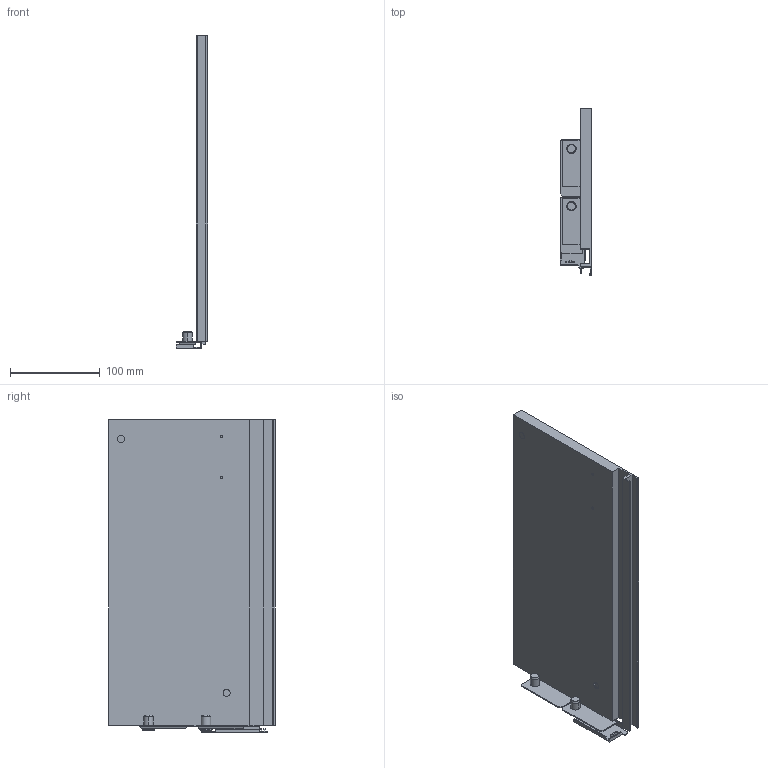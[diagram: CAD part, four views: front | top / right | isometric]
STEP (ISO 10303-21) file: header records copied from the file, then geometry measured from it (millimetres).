
FILE_DESCRIPTION (( 'STEP AP214' ), '1' );
FILE_NAME ('Vionaro_Alu-Zarge_H185_NL350_RE.STEP', '2014-08-20T15:03:22', ( '' ), ( '' ), 'SwSTEP 2.0', 'SolidWorks 2013', '' );
FILE_SCHEMA (( 'AUTOMOTIVE_DESIGN' ));
Length unit declared in the file: millimetre
Products named in the file (1): Vionaro_Alu-Zarge_H185_NL350_RE
Bounding box: 35.6 x 185 x 347.9 mm (x, y, z)
Volume: 741304.7 mm3; surface area: 163605.3 mm2
Topology: 1 solids, 1 shells, 136 faces, 356 edges, 233 vertices
Faces by surface type: plane 96, cylinder 32, cone 8
Entity records: 4187 total; most frequent: CARTESIAN_POINT 732, ORIENTED_EDGE 712, DIRECTION 701, EDGE_CURVE 356, LINE 281, VECTOR 281, VERTEX_POINT 233, AXIS2_PLACEMENT_3D 210
